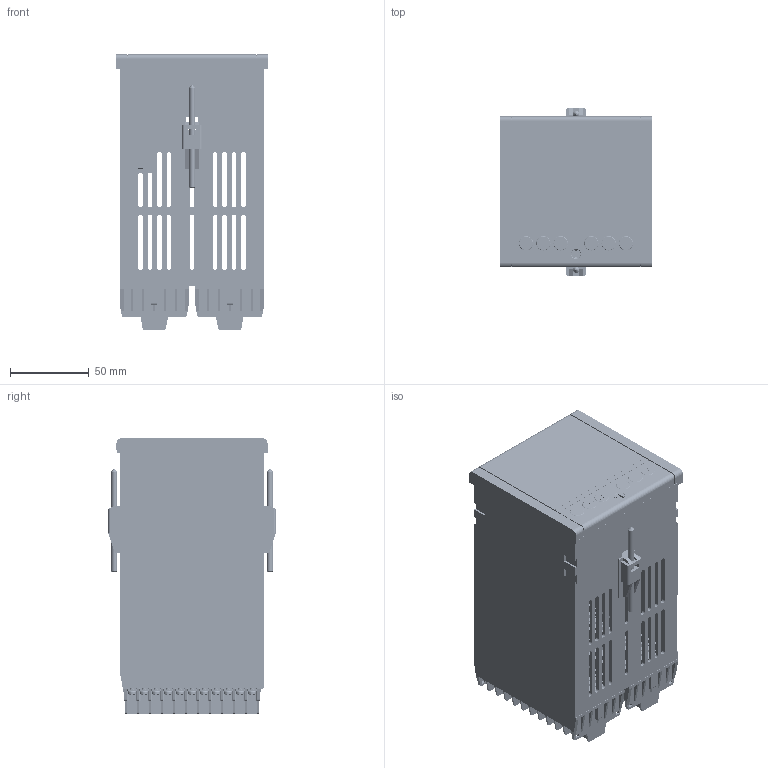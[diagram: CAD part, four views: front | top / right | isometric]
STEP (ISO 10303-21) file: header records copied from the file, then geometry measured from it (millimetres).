
FILE_DESCRIPTION((''),'2;1');
FILE_NAME('2500_ASSY','2019-07-17T15:56:20',('paolo.garatti'),('GEFRAN S.p.A via Carducci,24 21040 Gerenzano (VA)'),'CREO PARAMETRIC BY PTC INC, 2018300','CREO PARAMETRIC BY PTC INC, 2018300','');
FILE_SCHEMA(('AUTOMOTIVE_DESIGN { 1 0 10303 214 1 1 1 1 }'));
Products named in the file (17): 51235S_FRONTALE_1101-4500; 0879D1; 51248_SCAT4300_96X96; 51324; VETRINO; 51243_VETRINO_4300; 52472_LEXAN_2500; 48034_VITE_TSP_M3X26; 49044_BLOCCHETTO_CHIUSURA; PIASTRINA_CONTATTO; 1455D_48213_PLATE; 1455D_48213_SCREW; 1455D_48213; RJ11_4VIE_MOLEX; 2500; BLOCK; 2500_ASSY
Assembly tree (149 placements, depth 4):
  2500_ASSY
    2500
      51235S_FRONTALE_1101-4500
      0879D1  x2
      51248_SCAT4300_96X96
      51324  x2
      51243_VETRINO_4300
        VETRINO
      52472_LEXAN_2500
      48034_VITE_TSP_M3X26
      49044_BLOCCHETTO_CHIUSURA
      PIASTRINA_CONTATTO  x66
      1455D_48213  x66
        1455D_48213_PLATE
        1455D_48213_SCREW
      RJ11_4VIE_MOLEX
    BLOCK  x2
Bounding box: 96 x 106.6 x 175.07 mm (x, y, z)
Volume: 265952.8 mm3; surface area: 293346.5 mm2
Topology: 213 solids, 213 shells, 18489 faces, 48803 edges, 30828 vertices
Faces by surface type: plane 9409, cylinder 5968, bspline 2112, torus 686, cone 178, sphere 136
Entity records: 185247 total; most frequent: CARTESIAN_POINT 25611, ORIENTED_EDGE 22194, DIRECTION 20467, PRESENTATION_STYLE_ASSIGNMENT 12991, STYLED_ITEM 12981, EDGE_CURVE 11097, CURVE_STYLE 9906, VECTOR 9057
